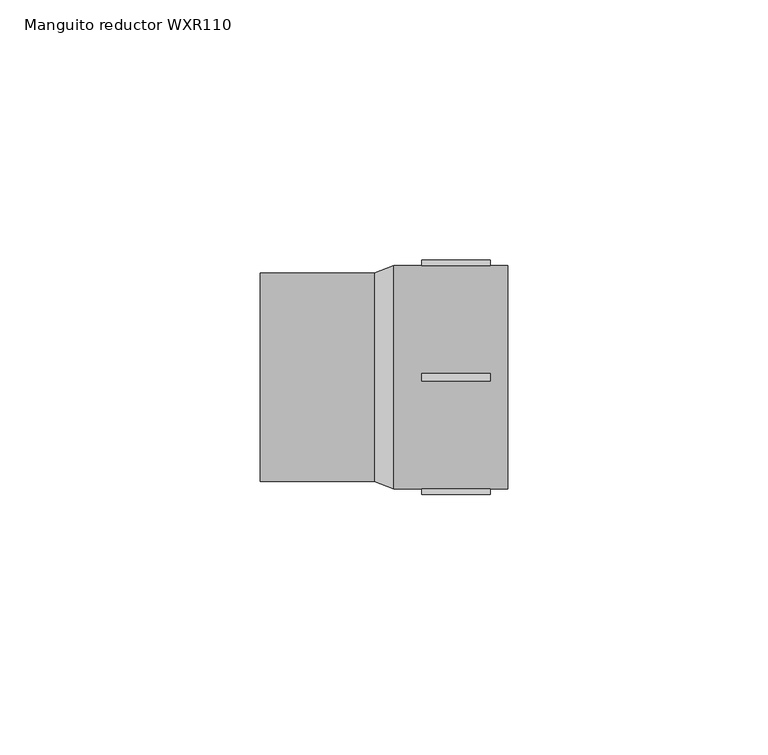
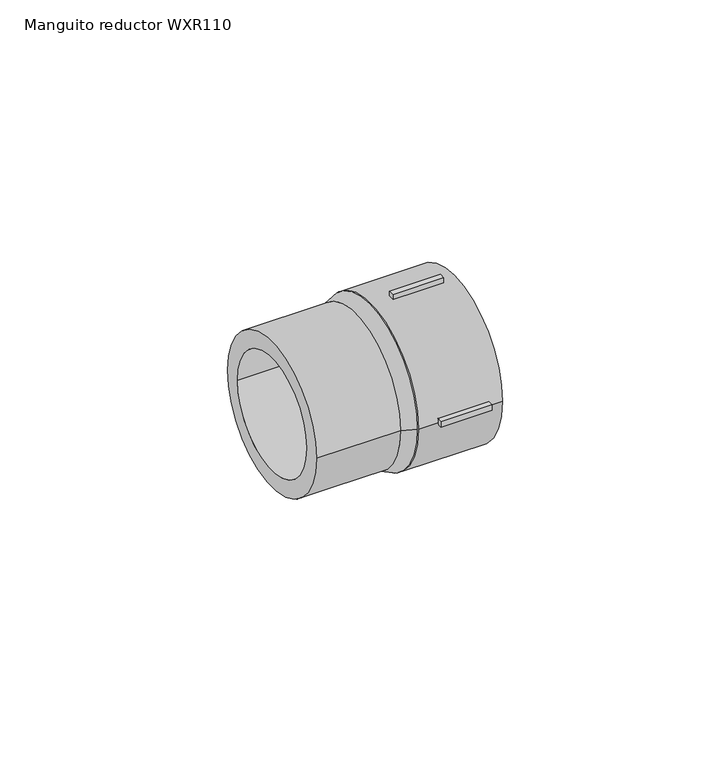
"""IFC4 building model written with IfcOpenShell, lengths in millimetres: pipe fitting geometry, EGB_VASEN_ PPR_Manguito reductor WXR110 : Manguito reductor WXR110."""

from ifc_helpers import new_model, si_unit, point, frame, origin, origin_2d, place, context, project, spatial, polyline, circle_curve, trimmed, segment, composite_curve, outline, extrude, source, transform, mapped, element, save
from ifc_brep_helpers import plane_surface, revolved_surface, advanced_brep


def manguito_reductor_wxr110_7c3353da(model_context):
    return source(origin(), model_context, "Body", "SolidModel", [
        extrude(outline(polyline([(7.25, -0.75), (7.25, 0.75), (20.45, 0.75), (20.45, -0.75), (7.25, -0.75)])), frame((0.0, 0.0, 20.5), z_axis=(0.0, 0.0, 1.0), x_axis=(1.0, 0.0, 0.0)), (0.0, 0.0, 1.0), 2.0),
        extrude(outline(polyline([(7.25, -0.75), (7.25, 0.75), (20.45, 0.75), (20.45, -0.75), (7.25, -0.75)])), frame((0.0, 0.0, -22.5), z_axis=(0.0, 0.0, 1.0), x_axis=(1.0, 0.0, 0.0)), (0.0, 0.0, 1.0), 2.0),
        extrude(outline(polyline([(7.25, 20.5), (7.25, 22.5), (20.45, 22.5), (20.45, 20.5), (7.25, 20.5)])), frame((0.0, 0.0, -0.75), z_axis=(0.0, 0.0, 1.0), x_axis=(1.0, 0.0, 0.0)), (0.0, 0.0, 1.0), 1.5),
        extrude(outline(polyline([(7.25, -22.5), (7.25, -20.5), (20.45, -20.5), (20.45, -22.5), (7.25, -22.5)])), frame((0.0, 0.0, -0.75), z_axis=(0.0, 0.0, 1.0), x_axis=(1.0, 0.0, 0.0)), (0.0, 0.0, 1.0), 1.5),
        extrude(outline(composite_curve([segment(trimmed(circle_curve(origin_2d(), 21.5), [point((-21.5, 0.0))], [point((21.5, 0.0))], False, "CARTESIAN"), True, "CONTINUOUS"), segment(trimmed(circle_curve(origin_2d(), 21.5), [point((21.5, 0.0))], [point((-21.5, 0.0))], False, "CARTESIAN"), True, "CONTINUOUS")], self_intersect=False), holes=[composite_curve([segment(trimmed(circle_curve(origin_2d(), 16.0), [point((-16.0, 0.0))], [point((16.0, 0.0))], True, "CARTESIAN"), True, "CONTINUOUS"), segment(trimmed(circle_curve(origin_2d(), 16.0), [point((16.0, 0.0))], [point((-16.0, 0.0))], True, "CARTESIAN"), True, "CONTINUOUS")], self_intersect=False)]), frame((1.9, 0.0, 0.0), z_axis=(1.0, 0.0, 0.0), x_axis=(0.0, 1.0, 0.0)), (0.0, 0.0, 1.0), 21.85),
        extrude(outline(composite_curve([segment(trimmed(circle_curve(origin_2d(), 20.0), [point((-20.0, 0.0))], [point((20.0, 0.0))], False, "CARTESIAN"), True, "CONTINUOUS"), segment(trimmed(circle_curve(origin_2d(), 20.0), [point((20.0, 0.0))], [point((-20.0, 0.0))], False, "CARTESIAN"), True, "CONTINUOUS")], self_intersect=False), holes=[composite_curve([segment(trimmed(circle_curve(origin_2d(), 15.5), [point((-15.5, 0.0))], [point((15.5, 0.0))], True, "CARTESIAN"), True, "CONTINUOUS"), segment(trimmed(circle_curve(origin_2d(), 15.5), [point((15.5, 0.0))], [point((-15.5, 0.0))], True, "CARTESIAN"), True, "CONTINUOUS")], self_intersect=False)]), frame((-23.75, 0.0, 0.0), z_axis=(1.0, 0.0, 0.0), x_axis=(0.0, 1.0, 0.0)), (0.0, 0.0, 1.0), 21.85),
        advanced_brep(
        [(1.9, -21.5, 0.0), (1.9, 21.5, 0.0), (-1.9, -20.0, 0.0), (-1.9, 20.0, 0.0)],
        [
            (0, 1, circle_curve(frame((1.9, 0.0, 0.0), z_axis=(1.0, 0.0, 0.0), x_axis=(0.0, -1.0, 0.0)), 21.5)),
            (1, 0, circle_curve(frame((1.9, 0.0, 0.0), z_axis=(1.0, 0.0, 0.0), x_axis=(0.0, 1.0, 0.0)), 21.5)),
            (2, 3, circle_curve(frame((-1.9, 0.0, 0.0), z_axis=(-1.0, 0.0, 0.0), x_axis=(0.0, 1.0, 0.0)), 20.0)),
            (3, 2, circle_curve(frame((-1.9, 0.0, 0.0), z_axis=(-1.0, 0.0, 0.0), x_axis=(0.0, -1.0, 0.0)), 20.0)),
            (3, 1),
            (0, 2),
        ],
        [
            plane_surface(frame((1.9, 0.0, 0.0), z_axis=(1.0, 0.0, 0.0), x_axis=(0.0, 0.0, -1.0))),
            plane_surface(frame((-1.9, 0.0, 0.0), z_axis=(-1.0, 0.0, 0.0), x_axis=(0.0, 0.0, -1.0))),
            revolved_surface(polyline([(-1.8999999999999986, 20.000000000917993, 0.0), (1.8999999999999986, 21.5, 0.0)]), (-52.5666667, 0.0, 0.0), (1.0, 0.0, 0.0)),
            revolved_surface(polyline([(-1.8999999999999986, -20.000000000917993, 0.0), (1.8999999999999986, -21.5, 0.0)]), (-52.5666667, 0.0, 0.0), (1.0, 0.0, 0.0)),
        ],
        [
            (0, [[1, 2]]),
            (1, [[3, 4]]),
            (2, [[-4, 5, -1, 6]]),
            (3, [[-3, -6, -2, -5]]),
        ],
    ),
    ])


if __name__ == "__main__":
    model = new_model("IFC4")
    model_context = context("Model", 3, world=origin())
    ifc_project = project(units=[si_unit("LENGTHUNIT", "METRE", prefix="MILLI")], contexts=[model_context])
    site = spatial("IfcSite", under=ifc_project)
    building = spatial("IfcBuilding", under=site)
    placement = place(None, origin())
    manguito_reductor_wxr110_shape = manguito_reductor_wxr110_7c3353da(model_context)
    element("IfcPipeFitting", 1, ObjectType="EGB_VASEN_ PPR_Manguito reductor WXR110 : Manguito reductor WXR110", at=placement, inside=building, context=model_context, shape_type="MappedRepresentation", body=[
        mapped(manguito_reductor_wxr110_shape, transform((0.0, 0.0, 0.0), x_axis=(1.0, 0.0, 0.0), y_axis=(0.0, 1.0, 0.0), z_axis=(0.0, 0.0, 1.0))),
    ])
    save(model, "model.ifc")
